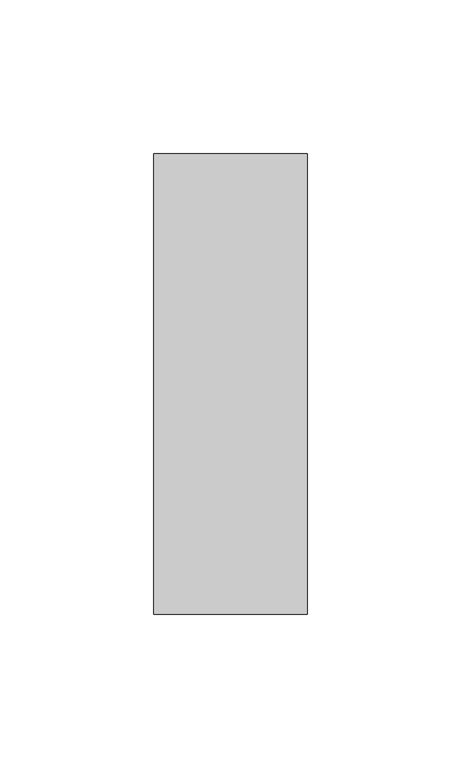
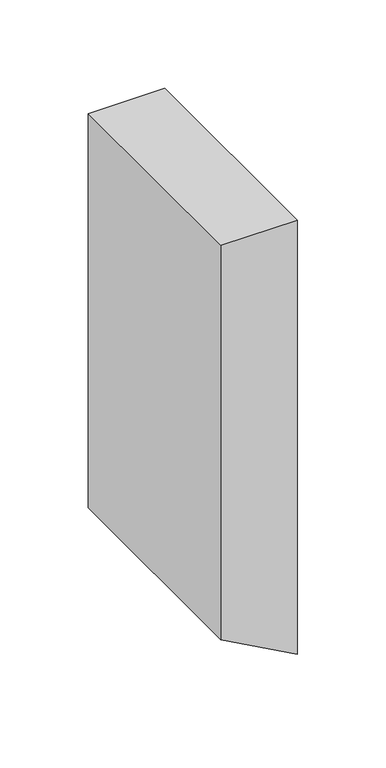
"""IFC4 building model written with IfcOpenShell, lengths in millimetres: member geometry, Прямоугольный импост : 50 x 150 мм."""

from ifc_helpers import new_model, si_unit, frame, origin, place, context, project, spatial, polyline, outline, extrude, source, transform, mapped, element, save


def member_c97971b2(model_context):
    return source(origin(), model_context, "Body", "SweptSolid", [
        extrude(outline(polyline([(0.0, 0.0), (0.0, -50.0), (-272.3433781, -50.0), (-300.0, 0.0), (0.0, 0.0)])), frame((0.0, -75.0, 0.0), z_axis=(0.0, 1.0, 0.0), x_axis=(0.0, 0.0, 1.0)), (0.0, 0.0, 1.0), 150.0),
    ])


if __name__ == "__main__":
    model = new_model("IFC4")
    model_context = context("Model", 3, world=origin())
    ifc_project = project(units=[si_unit("LENGTHUNIT", "METRE", prefix="MILLI")], contexts=[model_context])
    site = spatial("IfcSite", under=ifc_project)
    building = spatial("IfcBuilding", under=site)
    placement = place(None, origin())
    member_shape = member_c97971b2(model_context)
    element("IfcMember", 1, ObjectType="Прямоугольный импост : 50 x 150 мм", at=placement, inside=building, context=model_context, shape_type="MappedRepresentation", body=[
        mapped(member_shape, transform((0.0, 0.0, 0.0), x_axis=(1.0, 0.0, 0.0), y_axis=(0.0, 1.0, 0.0), z_axis=(0.0, 0.0, 1.0))),
    ])
    save(model, "model.ifc")
